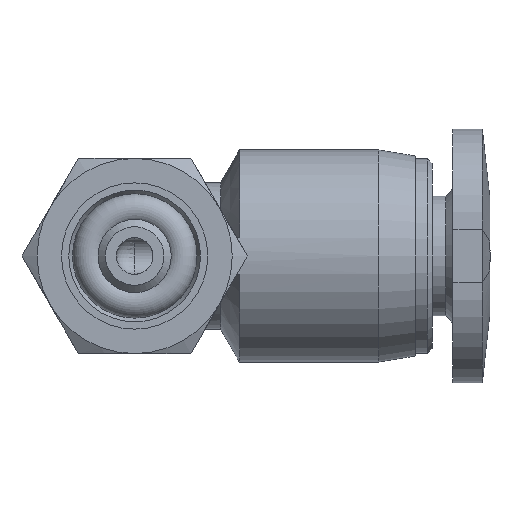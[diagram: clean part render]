
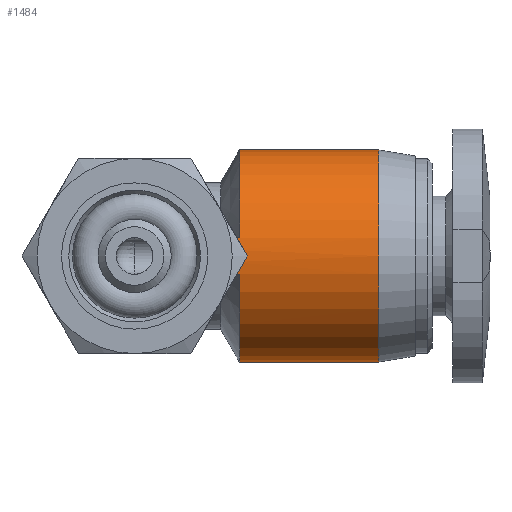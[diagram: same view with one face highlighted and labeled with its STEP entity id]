
A CAD part, front view. The second image highlights one B-rep face of the part: STEP entity #1484.
In plain terms, the highlighted cylindrical face has radius 4.35 mm (diameter 8.7 mm), a full revolution.
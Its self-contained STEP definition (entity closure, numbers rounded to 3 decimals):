
#178=CARTESIAN_POINT('',(4.3,9.135,-0.75));
#179=VERTEX_POINT('',#178);
#235=CARTESIAN_POINT('',(4.3,9.135,0.75));
#236=VERTEX_POINT('',#235);
#254=CARTESIAN_POINT('',(4.3,9.2,0.0));
#255=VERTEX_POINT('',#254);
#256=CARTESIAN_POINT('',(4.3,4.85,0.0));
#257=DIRECTION('',(1.0,0.,0.0));
#258=DIRECTION('',(0.,1.0,0.0));
#259=AXIS2_PLACEMENT_3D('',#256,#257,#258);
#260=CIRCLE('',#259,4.35);
#261=EDGE_CURVE('',#255,#236,#260,.T.);
#263=CARTESIAN_POINT('',(4.3,4.85,0.0));
#264=DIRECTION('',(1.0,0.,0.0));
#265=DIRECTION('',(0.,1.0,0.0));
#266=AXIS2_PLACEMENT_3D('',#263,#264,#265);
#267=CIRCLE('',#266,4.35);
#268=EDGE_CURVE('',#179,#255,#267,.T.);
#1306=CARTESIAN_POINT('',(4.3,0.565,-0.75));
#1307=VERTEX_POINT('',#1306);
#1323=CARTESIAN_POINT('',(3.929,0.565,-0.75));
#1324=VERTEX_POINT('',#1323);
#1325=CARTESIAN_POINT('',(4.3,0.565,-0.75));
#1326=DIRECTION('',(-1.0,0.0,0.0));
#1327=VECTOR('',#1326,0.371);
#1328=LINE('',#1325,#1327);
#1329=EDGE_CURVE('',#1307,#1324,#1328,.T.);
#1378=CARTESIAN_POINT('',(4.3,0.565,0.75));
#1379=VERTEX_POINT('',#1378);
#1424=CARTESIAN_POINT('',(3.929,0.565,0.75));
#1425=VERTEX_POINT('',#1424);
#1432=CARTESIAN_POINT('',(4.3,0.565,0.75));
#1433=DIRECTION('',(-1.0,0.0,0.0));
#1434=VECTOR('',#1433,0.371);
#1435=LINE('',#1432,#1434);
#1436=EDGE_CURVE('',#1379,#1425,#1435,.T.);
#1441=CARTESIAN_POINT('',(4.3,4.85,0.0));
#1442=DIRECTION('',(-1.0,0.0,0.0));
#1443=DIRECTION('',(0.0,-0.985,0.172));
#1444=AXIS2_PLACEMENT_3D('',#1441,#1442,#1443);
#1445=CYLINDRICAL_SURFACE('',#1444,4.35);
#1446=CARTESIAN_POINT('',(10.,9.2,0.0));
#1447=VERTEX_POINT('',#1446);
#1448=CARTESIAN_POINT('',(10.,4.85,0.0));
#1449=DIRECTION('',(1.0,0.,0.0));
#1450=DIRECTION('',(0.,1.0,0.0));
#1451=AXIS2_PLACEMENT_3D('',#1448,#1449,#1450);
#1452=CIRCLE('',#1451,4.35);
#1453=EDGE_CURVE('',#1447,#1447,#1452,.T.);
#1454=ORIENTED_EDGE('',*,*,#1453,.F.);
#1455=EDGE_LOOP('',(#1454));
#1456=FACE_OUTER_BOUND('',#1455,.T.);
#1457=CARTESIAN_POINT('',(3.929,0.565,-0.75));
#1458=CARTESIAN_POINT('',(4.024,0.478,-0.255));
#1459=CARTESIAN_POINT('',(4.024,0.478,0.255));
#1460=CARTESIAN_POINT('',(3.929,0.565,0.75));
#1461=B_SPLINE_CURVE_WITH_KNOTS('',3,(#1457,#1458,#1459,#1460),.UNSPECIFIED.,.F.,.U.,(4,4),(0.606,0.756),.UNSPECIFIED.);
#1462=EDGE_CURVE('',#1324,#1425,#1461,.T.);
#1463=ORIENTED_EDGE('',*,*,#1462,.F.);
#1464=ORIENTED_EDGE('',*,*,#1329,.F.);
#1465=CARTESIAN_POINT('',(4.3,4.85,0.0));
#1466=DIRECTION('',(1.0,0.,0.0));
#1467=DIRECTION('',(0.,1.0,0.0));
#1468=AXIS2_PLACEMENT_3D('',#1465,#1466,#1467);
#1469=CIRCLE('',#1468,4.35);
#1470=EDGE_CURVE('',#1307,#179,#1469,.T.);
#1471=ORIENTED_EDGE('',*,*,#1470,.T.);
#1472=ORIENTED_EDGE('',*,*,#268,.T.);
#1473=ORIENTED_EDGE('',*,*,#261,.T.);
#1474=CARTESIAN_POINT('',(4.3,4.85,0.0));
#1475=DIRECTION('',(1.0,0.,0.0));
#1476=DIRECTION('',(0.,1.0,0.0));
#1477=AXIS2_PLACEMENT_3D('',#1474,#1475,#1476);
#1478=CIRCLE('',#1477,4.35);
#1479=EDGE_CURVE('',#236,#1379,#1478,.T.);
#1480=ORIENTED_EDGE('',*,*,#1479,.T.);
#1481=ORIENTED_EDGE('',*,*,#1436,.T.);
#1482=EDGE_LOOP('',(#1463,#1464,#1471,#1472,#1473,#1480,#1481));
#1483=FACE_BOUND('',#1482,.T.);
#1484=ADVANCED_FACE('',(#1456,#1483),#1445,.T.);
